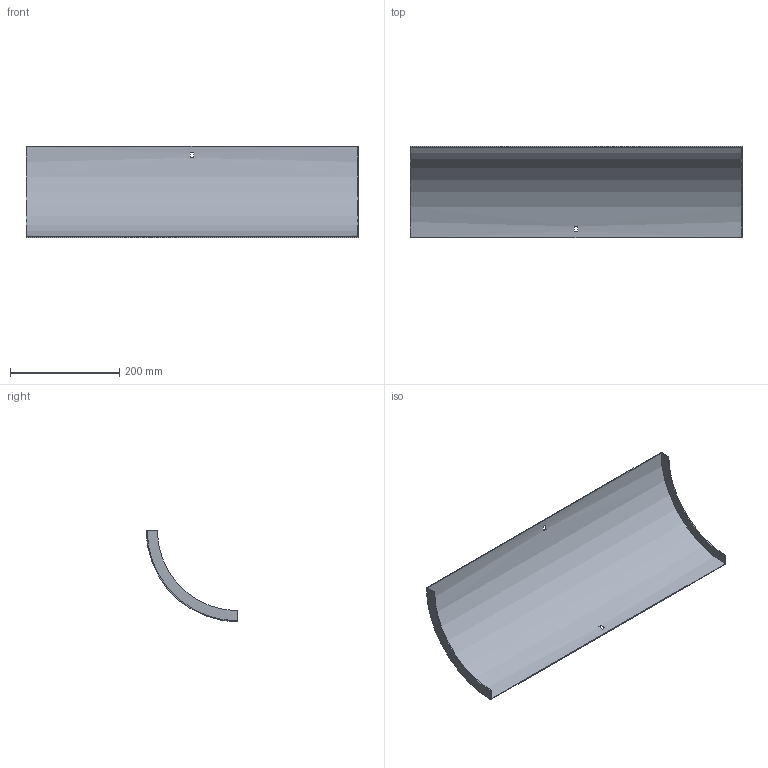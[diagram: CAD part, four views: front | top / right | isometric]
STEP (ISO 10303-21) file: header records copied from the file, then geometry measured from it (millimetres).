
FILE_DESCRIPTION (( 'STEP AP214' ), '1' );
FILE_NAME ('33N1H600.step', '2025-02-21T09:18:50', ( '' ), ( '' ), 'SwSTEP 2.0', 'SolidWorks 2023', '' );
FILE_SCHEMA (( 'AUTOMOTIVE_DESIGN' ));
Length unit declared in the file: millimetre
Products named in the file (1): 33N1H600
Bounding box: 607 x 167 x 167 mm (x, y, z)
Volume: 251217.8 mm3; surface area: 337678.8 mm2
Topology: 1 solids, 1 shells, 18 faces, 48 edges, 32 vertices
Faces by surface type: plane 14, cylinder 4
Entity records: 599 total; most frequent: DIRECTION 102, CARTESIAN_POINT 99, ORIENTED_EDGE 96, EDGE_CURVE 48, AXIS2_PLACEMENT_3D 35, LINE 32, VERTEX_POINT 32, VECTOR 32
